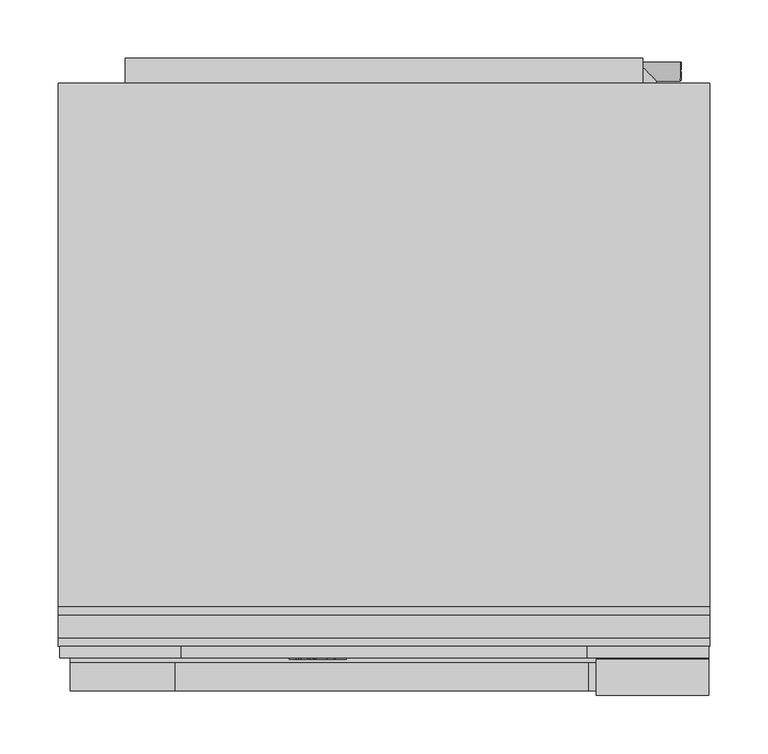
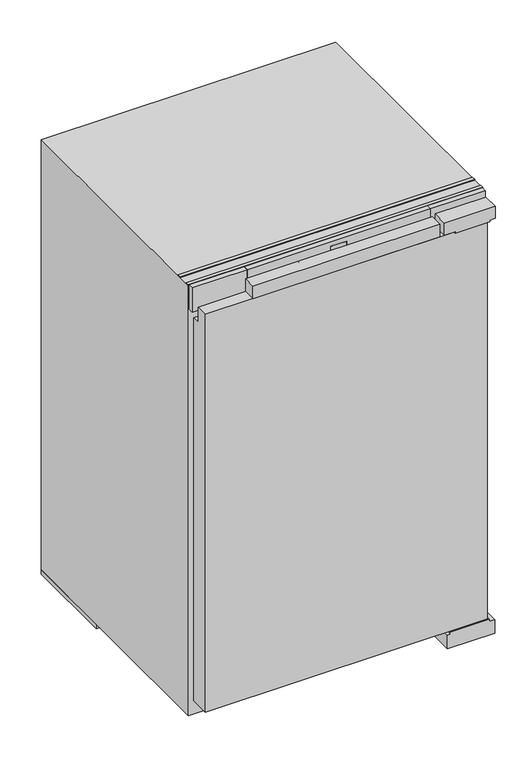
"""IFC4 building model written with IfcOpenShell, lengths in millimetres: proxy geometry, 11717520_OER_FNS7140E : 37714000_OER_11717520_FNS7140E."""

from ifc_helpers import new_model, si_unit, point, frame, frame_2d, origin, origin_with_axes, place, context, project, spatial, polyline, circle_curve, ellipse_curve, trimmed, segment, composite_curve, outline, extrude, faceted_brep, source, transform, mapped, element, save
from ifc_brep_helpers import plane_surface, cylinder_surface, revolved_surface, extruded_surface, advanced_brep


def specialty_equipment_aa71a83b(model_context):
    return source(origin(), model_context, "Body", "SolidModel", [
        advanced_brep(
        [(-37.4941578, 34.0, 845.708), (-37.4941578, 34.0, 846.516), (-32.1421578, 34.0, 846.516), (-41.4541578, 34.0, 846.516), (-39.2541578, 34.0, 843.812), (-32.2781578, 34.0, 845.708), (-34.6941578, 34.0, 845.708), (-36.5981578, 34.0, 844.812), (-37.4941578, 34.0, 847.54), (-37.4941578, 34.0, 848.412), (-36.1261578, 34.0, 848.412), (-36.1261578, 34.0, 847.54), (-37.4941578, 35.0, 845.708), (-36.5981578, 35.0, 844.812), (-34.6941578, 35.0, 845.708), (-32.2781578, 35.0, 845.708), (-39.2541578, 35.0, 843.812), (-41.4541578, 35.0, 846.516), (-32.1421578, 35.0, 846.516), (-37.4941578, 35.0, 846.516), (-37.4941578, 35.0, 847.54), (-36.1261578, 35.0, 847.54), (-36.1261578, 35.0, 848.412), (-37.4941578, 35.0, 848.412)],
        [
            (0, 1),
            (1, 2),
            (2, 3, ellipse_curve(frame((-36.7981578, 34.0, 846.516), z_axis=(0.0, -1.0, 0.0), x_axis=(-1.0, 0.0, 0.0)), 4.656, 3.848)),
            (3, 4, circle_curve(frame((-38.3581141, 34.0, 846.788), z_axis=(0.0, -1.0, 0.0), x_axis=(0.0, 0.0, -1.0)), 3.1079688)),
            (4, 5, circle_curve(frame((-36.8913642, 34.0, 848.9), z_axis=(0.0, -1.0, 0.0), x_axis=(0.0, 0.0, -1.0)), 5.6098607)),
            (5, 6),
            (6, 7, circle_curve(frame((-36.207099, 34.0, 846.452), z_axis=(0.0, 1.0, 0.0), x_axis=(0.0, 0.0, -1.0)), 1.6859795)),
            (7, 0, circle_curve(frame((-36.5981578, 34.0, 845.708), z_axis=(0.0, 1.0, 0.0), x_axis=(0.0, 0.0, -1.0)), 0.896)),
            (8, 9),
            (9, 10, circle_curve(frame((-36.8101578, 34.0, 848.412), z_axis=(0.0, 1.0, 0.0), x_axis=(0.0, 0.0, -1.0)), 0.684)),
            (10, 11),
            (11, 8),
            (12, 13, circle_curve(frame((-36.5981578, 35.0, 845.708), z_axis=(0.0, -1.0, 0.0), x_axis=(0.0, 0.0, -1.0)), 0.896)),
            (13, 14, circle_curve(frame((-36.207099, 35.0, 846.452), z_axis=(0.0, -1.0, 0.0), x_axis=(0.0, 0.0, -1.0)), 1.6859795)),
            (14, 15),
            (15, 16, circle_curve(frame((-36.8913642, 35.0, 848.9), z_axis=(0.0, 1.0, 0.0), x_axis=(0.0, 0.0, -1.0)), 5.6098607)),
            (16, 17, circle_curve(frame((-38.3581141, 35.0, 846.788), z_axis=(0.0, 1.0, 0.0), x_axis=(0.0, 0.0, -1.0)), 3.1079688)),
            (17, 18, ellipse_curve(frame((-36.7981578, 35.0, 846.516), z_axis=(0.0, 1.0, 0.0), x_axis=(-1.0, 0.0, 0.0)), 4.656, 3.848)),
            (18, 19),
            (19, 12),
            (20, 21),
            (21, 22),
            (22, 23, circle_curve(frame((-36.8101578, 35.0, 848.412), z_axis=(0.0, -1.0, 0.0), x_axis=(0.0, 0.0, -1.0)), 0.684)),
            (23, 20),
            (0, 12),
            (19, 1),
            (18, 2),
            (5, 15),
            (14, 6),
            (17, 3),
            (13, 7),
            (16, 4),
            (8, 20),
            (23, 9),
            (22, 10),
            (21, 11),
        ],
        [
            plane_surface(frame((-37.4941578, 34.0, 846.516), z_axis=(0.0, -1.0, 0.0), x_axis=(0.0, 0.0, 1.0))),
            plane_surface(frame((-37.4941578, 35.0, 846.516), z_axis=(0.0, 1.0, 0.0), x_axis=(0.0, 0.0, -1.0))),
            plane_surface(frame((-37.4941578, 34.0, 845.708), z_axis=(1.0, 0.0, 0.0), x_axis=(0.0, 1.0, 0.0))),
            plane_surface(frame((-37.4941578, 34.0, 846.516), z_axis=(0.0, 0.0, -1.0), x_axis=(0.0, 1.0, 0.0))),
            plane_surface(frame((-32.2781578, 34.0, 845.708), z_axis=(0.0, 0.0, 1.0), x_axis=(0.0, 1.0, 0.0))),
            extruded_surface(trimmed(ellipse_curve(frame((-36.7981578, 36.0, 846.516), z_axis=(0.0, -1.0, 0.0), x_axis=(-1.0, 0.0, 0.0)), 4.656, 3.848), [point((-32.1421578, 36.0, 846.516))], [point((-41.4541578, 36.0, 846.516))], True, "CARTESIAN"), (0.0, -1.0, 0.0), 1.0),
            revolved_surface(polyline([(-36.207099, 35.0, 844.7660205), (-36.207099, 34.0, 844.7660205)]), (-36.207099, 35.0, 846.452), (0.0, 1.0, 0.0)),
            revolved_surface(polyline([(-36.5981578, 35.0, 844.812), (-36.5981578, 34.0, 844.812)]), (-36.5981578, 35.0, 845.708), (0.0, 1.0, 0.0)),
            cylinder_surface(frame((-38.3581141, 35.0, 846.788), z_axis=(0.0, -1.0, 0.0), x_axis=(0.0, 0.0, -1.0)), 3.1079688),
            cylinder_surface(frame((-36.8913642, 35.0, 848.9), z_axis=(0.0, -1.0, 0.0), x_axis=(0.0, 0.0, -1.0)), 5.6098607),
            plane_surface(frame((-37.4941578, 34.0, 847.54), z_axis=(1.0, 0.0, 0.0), x_axis=(0.0, 1.0, 0.0))),
            revolved_surface(polyline([(-36.8101578, 35.0, 847.7280000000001), (-36.8101578, 34.0, 847.7280000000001)]), (-36.8101578, 35.0, 848.412), (0.0, 1.0, 0.0)),
            plane_surface(frame((-36.1261578, 34.0, 848.412), z_axis=(-1.0, 0.0, 0.0), x_axis=(0.0, 1.0, 0.0))),
            plane_surface(frame((-36.1261578, 34.0, 847.54), z_axis=(0.0, 0.0, 1.0), x_axis=(0.0, 1.0, 0.0))),
        ],
        [
            (0, [[1, 2, 3, 4, 5, 6, 7, 8], [9, 10, 11, 12]]),
            (1, [[13, 14, 15, 16, 17, 18, 19, 20], [21, 22, 23, 24]]),
            (2, [[-1, 25, -20, 26]]),
            (3, [[-2, -26, -19, 27]]),
            (4, [[-6, 28, -15, 29]]),
            (5, [[-3, -27, -18, 30]]),
            (6, [[-7, -29, -14, 31]]),
            (7, [[-8, -31, -13, -25]]),
            (8, [[-4, -30, -17, 32]]),
            (9, [[-5, -32, -16, -28]]),
            (10, [[-9, 33, -24, 34]]),
            (11, [[-10, -34, -23, 35]]),
            (12, [[-11, -35, -22, 36]]),
            (13, [[-12, -36, -21, -33]]),
        ],
    ),
        advanced_brep(
        [(-54.1901578, 34.0, 845.708), (-54.1901578, 34.0, 846.516), (-48.8381578, 34.0, 846.516), (-58.1501578, 34.0, 846.516), (-55.9501578, 34.0, 843.812), (-48.9741578, 34.0, 845.708), (-51.3901578, 34.0, 845.708), (-53.2941578, 34.0, 844.812), (-54.1901578, 34.0, 847.54), (-54.1901578, 34.0, 848.412), (-52.8221578, 34.0, 848.412), (-52.8221578, 34.0, 847.54), (-54.1901578, 35.0, 845.708), (-53.2941578, 35.0, 844.812), (-51.3901578, 35.0, 845.708), (-48.9741578, 35.0, 845.708), (-55.9501578, 35.0, 843.812), (-58.1501578, 35.0, 846.516), (-48.8381578, 35.0, 846.516), (-54.1901578, 35.0, 846.516), (-54.1901578, 35.0, 847.54), (-52.8221578, 35.0, 847.54), (-52.8221578, 35.0, 848.412), (-54.1901578, 35.0, 848.412)],
        [
            (0, 1),
            (1, 2),
            (2, 3, ellipse_curve(frame((-53.4941578, 34.0, 846.516), z_axis=(0.0, -1.0, 0.0), x_axis=(-1.0, 0.0, 0.0)), 4.656, 3.848)),
            (3, 4, circle_curve(frame((-55.0541141, 34.0, 846.788), z_axis=(0.0, -1.0, 0.0), x_axis=(0.0, 0.0, -1.0)), 3.1079688)),
            (4, 5, circle_curve(frame((-53.5873642, 34.0, 848.9), z_axis=(0.0, -1.0, 0.0), x_axis=(0.0, 0.0, -1.0)), 5.6098607)),
            (5, 6),
            (6, 7, circle_curve(frame((-52.903099, 34.0, 846.452), z_axis=(0.0, 1.0, 0.0), x_axis=(0.0, 0.0, -1.0)), 1.6859795)),
            (7, 0, circle_curve(frame((-53.2941578, 34.0, 845.708), z_axis=(0.0, 1.0, 0.0), x_axis=(0.0, 0.0, -1.0)), 0.896)),
            (8, 9),
            (9, 10, circle_curve(frame((-53.5061578, 34.0, 848.412), z_axis=(0.0, 1.0, 0.0), x_axis=(0.0, 0.0, -1.0)), 0.684)),
            (10, 11),
            (11, 8),
            (12, 13, circle_curve(frame((-53.2941578, 35.0, 845.708), z_axis=(0.0, -1.0, 0.0), x_axis=(0.0, 0.0, -1.0)), 0.896)),
            (13, 14, circle_curve(frame((-52.903099, 35.0, 846.452), z_axis=(0.0, -1.0, 0.0), x_axis=(0.0, 0.0, -1.0)), 1.6859795)),
            (14, 15),
            (15, 16, circle_curve(frame((-53.5873642, 35.0, 848.9), z_axis=(0.0, 1.0, 0.0), x_axis=(0.0, 0.0, -1.0)), 5.6098607)),
            (16, 17, circle_curve(frame((-55.0541141, 35.0, 846.788), z_axis=(0.0, 1.0, 0.0), x_axis=(0.0, 0.0, -1.0)), 3.1079688)),
            (17, 18, ellipse_curve(frame((-53.4941578, 35.0, 846.516), z_axis=(0.0, 1.0, 0.0), x_axis=(-1.0, 0.0, 0.0)), 4.656, 3.848)),
            (18, 19),
            (19, 12),
            (20, 21),
            (21, 22),
            (22, 23, circle_curve(frame((-53.5061578, 35.0, 848.412), z_axis=(0.0, -1.0, 0.0), x_axis=(0.0, 0.0, -1.0)), 0.684)),
            (23, 20),
            (0, 12),
            (19, 1),
            (18, 2),
            (5, 15),
            (14, 6),
            (17, 3),
            (13, 7),
            (16, 4),
            (8, 20),
            (23, 9),
            (22, 10),
            (21, 11),
        ],
        [
            plane_surface(frame((-54.1901578, 34.0, 846.516), z_axis=(0.0, -1.0, 0.0), x_axis=(0.0, 0.0, 1.0))),
            plane_surface(frame((-54.1901578, 35.0, 846.516), z_axis=(0.0, 1.0, 0.0), x_axis=(0.0, 0.0, -1.0))),
            plane_surface(frame((-54.1901578, 34.0, 845.708), z_axis=(1.0, 0.0, 0.0), x_axis=(0.0, 1.0, 0.0))),
            plane_surface(frame((-54.1901578, 34.0, 846.516), z_axis=(0.0, 0.0, -1.0), x_axis=(0.0, 1.0, 0.0))),
            plane_surface(frame((-48.9741578, 34.0, 845.708), z_axis=(0.0, 0.0, 1.0), x_axis=(0.0, 1.0, 0.0))),
            extruded_surface(trimmed(ellipse_curve(frame((-53.4941578, 36.0, 846.516), z_axis=(0.0, -1.0, 0.0), x_axis=(-1.0, 0.0, 0.0)), 4.656, 3.848), [point((-48.8381578, 36.0, 846.516))], [point((-58.1501578, 36.0, 846.516))], True, "CARTESIAN"), (0.0, -1.0, 0.0), 1.0),
            revolved_surface(polyline([(-52.903099, 35.0, 844.7660205), (-52.903099, 34.0, 844.7660205)]), (-52.903099, 35.0, 846.452), (0.0, 1.0, 0.0)),
            revolved_surface(polyline([(-53.2941578, 35.0, 844.812), (-53.2941578, 34.0, 844.812)]), (-53.2941578, 35.0, 845.708), (0.0, 1.0, 0.0)),
            cylinder_surface(frame((-55.0541141, 35.0, 846.788), z_axis=(0.0, -1.0, 0.0), x_axis=(0.0, 0.0, -1.0)), 3.1079688),
            cylinder_surface(frame((-53.5873642, 35.0, 848.9), z_axis=(0.0, -1.0, 0.0), x_axis=(0.0, 0.0, -1.0)), 5.6098607),
            plane_surface(frame((-54.1901578, 34.0, 847.54), z_axis=(1.0, 0.0, 0.0), x_axis=(0.0, 1.0, 0.0))),
            revolved_surface(polyline([(-53.5061578, 35.0, 847.7280000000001), (-53.5061578, 34.0, 847.7280000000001)]), (-53.5061578, 35.0, 848.412), (0.0, 1.0, 0.0)),
            plane_surface(frame((-52.8221578, 34.0, 848.412), z_axis=(-1.0, 0.0, 0.0), x_axis=(0.0, 1.0, 0.0))),
            plane_surface(frame((-52.8221578, 34.0, 847.54), z_axis=(0.0, 0.0, 1.0), x_axis=(0.0, 1.0, 0.0))),
        ],
        [
            (0, [[1, 2, 3, 4, 5, 6, 7, 8], [9, 10, 11, 12]]),
            (1, [[13, 14, 15, 16, 17, 18, 19, 20], [21, 22, 23, 24]]),
            (2, [[-1, 25, -20, 26]]),
            (3, [[-2, -26, -19, 27]]),
            (4, [[-6, 28, -15, 29]]),
            (5, [[-3, -27, -18, 30]]),
            (6, [[-7, -29, -14, 31]]),
            (7, [[-8, -31, -13, -25]]),
            (8, [[-4, -30, -17, 32]]),
            (9, [[-5, -32, -16, -28]]),
            (10, [[-9, 33, -24, 34]]),
            (11, [[-10, -34, -23, 35]]),
            (12, [[-11, -35, -22, 36]]),
            (13, [[-12, -36, -21, -33]]),
        ],
    ),
        extrude(outline(polyline([(851.34, -62.9341578), (850.044, -62.3261578), (851.308, -59.6141578), (852.604, -60.2141578), (851.34, -62.9341578)])), frame((0.0, 34.0, 0.0), z_axis=(0.0, 1.0, 0.0), x_axis=(0.0, 0.0, 1.0)), (0.0, 0.0, 1.0), 1.0),
        extrude(outline(polyline([(849.868, -64.9101578), (848.436, -64.9101578), (848.436, -63.9581578), (845.156, -63.9581578), (845.156, -64.9101578), (843.812, -64.9101578), (843.812, -58.5981578), (845.156, -58.5981578), (845.156, -59.5261578), (849.868, -59.5261578), (849.868, -64.9101578)])), frame((0.0, 34.0, 0.0), z_axis=(0.0, 1.0, 0.0), x_axis=(0.0, 0.0, 1.0)), (0.0, 0.0, 1.0), 1.0),
        extrude(outline(polyline([(850.508, -48.3901578), (850.508, -47.4301578), (845.156, -47.4301578), (845.156, -48.3901578), (843.812, -48.3901578), (843.812, -41.9021578), (845.156, -41.9021578), (845.156, -42.8861578), (851.812, -42.8861578), (851.812, -48.3901578), (850.508, -48.3901578)])), frame((0.0, 34.0, 0.0), z_axis=(0.0, 1.0, 0.0), x_axis=(0.0, 0.0, 1.0)), (0.0, 0.0, 1.0), 1.0),
        extrude(outline(polyline([(850.508, -80.8541578), (850.508, -79.8861578), (845.156, -79.8861578), (845.156, -80.8541578), (843.812, -80.8541578), (843.812, -77.3341578), (845.156, -77.3341578), (845.156, -78.2941578), (848.5591247, -78.2941578), (843.812, -74.7181578), (848.6272223, -71.1261578), (845.156, -71.1261578), (845.156, -72.1101578), (843.812, -72.1101578), (843.812, -65.7261578), (845.156, -65.7261578), (845.156, -66.7421578), (850.508, -66.7421578), (850.508, -65.7261578), (851.812, -65.7261578), (851.812, -70.5981578), (848.812, -72.9341578), (851.812, -75.2781578), (851.812, -80.8541578), (850.508, -80.8541578)])), frame((0.0, 34.0, 0.0), z_axis=(0.0, 1.0, 0.0), x_axis=(0.0, 0.0, 1.0)), (0.0, 0.0, 1.0), 1.0),
        faceted_brep([(173.6458422, 35.0, 871.0), (-173.3541578, 35.0, 871.0), (-173.3541578, 35.0, 822.0), (173.6458422, 35.0, 822.0), (15.1458422, 35.0, 862.0), (15.1458422, 35.0, 832.0), (-14.8541578, 35.0, 832.0), (-14.8541578, 35.0, 862.0), (173.6458422, 45.0, 871.0), (173.6458422, 45.0, 822.0), (-173.3541578, 45.0, 822.0), (-173.3541578, 45.0, 871.0), (15.1458422, 36.0, 862.0), (-14.8541578, 36.0, 862.0), (-14.8541578, 36.0, 832.0), (15.1458422, 36.0, 832.0)], [[[0, 1, 2, 3], [4, 5, 6, 7]], [[8, 9, 10, 11]], [[0, 3, 9, 8]], [[3, 2, 10, 9]], [[2, 1, 11, 10]], [[1, 0, 8, 11]], [[12, 13, 14, 15]], [[12, 15, 5, 4]], [[15, 14, 6, 5]], [[14, 13, 7, 6]], [[13, 12, 4, 7]]]),
        extrude(outline(polyline([(173.6458422, 45.0), (277.6458422, 45.0), (277.6458422, 35.0), (173.6458422, 35.0), (173.6458422, 45.0)])), frame((0.0, 0.0, 822.0), z_axis=(0.0, 0.0, 1.0), x_axis=(1.0, 0.0, 0.0)), (0.0, 0.0, 1.0), 49.0),
        extrude(outline(polyline([(-277.3541578, 45.0), (-173.3541578, 45.0), (-173.3541578, 35.0), (-277.3541578, 35.0), (-277.3541578, 45.0)])), frame((0.0, 0.0, 822.0), z_axis=(0.0, 0.0, 1.0), x_axis=(1.0, 0.0, 0.0)), (0.0, 0.0, 1.0), 49.0),
        extrude(outline(polyline([(-14.8541578, 36.0), (15.1458422, 36.0), (15.1458422, 35.0), (-14.8541578, 35.0), (-14.8541578, 36.0)])), frame((0.0, 0.0, 832.0), z_axis=(0.0, 0.0, 1.0), x_axis=(1.0, 0.0, 0.0)), (0.0, 0.0, 1.0), 30.0),
        extrude(outline(polyline([(174.6194317, 7.0), (-178.3805683, 7.0), (-178.3805683, 31.0), (174.6194317, 31.0), (174.6194317, 7.0)])), frame((0.0, 0.0, 831.8), z_axis=(0.0, 0.0, 1.0), x_axis=(1.0, 0.0, 0.0)), (0.0, 0.0, 1.0), 25.0),
        extrude(outline(polyline([(7.0, 35.8), (7.0, 831.8), (31.0, 831.8), (31.0, 801.8), (45.0, 801.8), (45.0, 35.8), (7.0, 35.8)])), frame((-268.3805683, 0.0, 0.0), z_axis=(1.0, 0.0, 0.0), x_axis=(0.0, 1.0, 0.0)), (0.0, 0.0, 1.0), 533.0),
        extrude(outline(polyline([(31.8, 187.6194317), (4.8, 187.6194317), (4.8, 277.6194317), (31.8, 277.6194317), (31.8, 266.6194317), (35.8, 266.6194317), (35.8, 193.6194317), (31.8, 193.6194317), (31.8, 187.6194317)])), frame((0.0, 4.0, 0.0), z_axis=(0.0, 1.0, 0.0), x_axis=(0.0, 0.0, 1.0)), (0.0, 0.0, 1.0), 41.0),
        extrude(outline(polyline([(831.8, 201.6194317), (831.8, 267.6194317), (834.8, 267.6194317), (834.8, 277.6194317), (858.8, 277.6194317), (858.8, 181.6194317), (834.8, 181.6194317), (834.8, 201.6194317), (831.8, 201.6194317)])), frame((0.0, 3.0, 0.0), z_axis=(0.0, 1.0, 0.0), x_axis=(0.0, 0.0, 1.0)), (0.0, 0.0, 1.0), 31.0),
        extrude(outline(polyline([(208.5, 487.0), (208.5, 399.0), (-208.5, 399.0), (-208.5, 487.0), (208.5, 487.0)])), frame((0.0, 0.0, 75.0), z_axis=(0.0, 0.0, 1.0), x_axis=(1.0, 0.0, 0.0)), (0.0, 0.0, 1.0), 217.0),
        faceted_brep([(278.5, 527.0, 869.0), (-278.5, 527.0, 869.0), (-278.5, 45.0, 869.0), (278.5, 45.0, 869.0), (278.5, 527.0, 9.0), (278.5, 45.0, 9.0), (-278.5, 45.0, 9.0), (-278.5, 527.0, 9.0), (-208.5, 45.0, 791.0), (208.5, 45.0, 791.0), (208.5, 45.0, 75.0), (-208.5, 45.0, 75.0), (208.5, 487.0, 791.0), (-208.5, 487.0, 791.0), (-208.5, 487.0, 75.0), (208.5, 487.0, 75.0)], [[[0, 1, 2, 3]], [[4, 5, 6, 7]], [[1, 0, 4, 7]], [[2, 1, 7, 6]], [[3, 2, 6, 5], [8, 9, 10, 11]], [[0, 3, 5, 4]], [[12, 13, 14, 15]], [[13, 12, 9, 8]], [[14, 13, 8, 11]], [[15, 14, 11, 10]], [[12, 15, 10, 9]]]),
        extrude(outline(polyline([(278.5, 52.0), (278.5, 45.0), (-278.5, 45.0), (-278.5, 52.0), (278.5, 52.0)])), frame((0.0, 0.0, 869.0), z_axis=(0.0, 0.0, 1.0), x_axis=(1.0, 0.0, 0.0)), (0.0, 0.0, 1.0), 2.0),
        extrude(outline(polyline([(278.5, 79.0), (278.5, 72.0), (-278.5, 72.0), (-278.5, 79.0), (278.5, 79.0)])), frame((0.0, 0.0, 869.0), z_axis=(0.0, 0.0, 1.0), x_axis=(1.0, 0.0, 0.0)), (0.0, 0.0, 1.0), 2.0),
        extrude(outline(polyline([(529.6227397, 135.8394627), (529.6227397, 145.8850937), (536.843037, 145.8850937), (536.843037, 144.6293899), (530.8784436, 144.6293899), (530.8784436, 141.6470932), (536.529111, 141.6470932), (536.529111, 140.3913893), (530.8784436, 140.3913893), (530.8784436, 137.0951666), (537.0, 137.0951666), (537.0, 135.8394627), (529.6227397, 135.8394627)])), frame((253.2418947, 0.0, 0.0), z_axis=(1.0, 0.0, 0.0), x_axis=(0.0, 1.0, 0.0)), (0.0, 0.0, 1.0), 1.0),
        extrude(outline(polyline([(538.8835558, 135.8394627), (538.8835558, 145.8850937), (540.1392597, 145.8850937), (540.1392597, 137.0951666), (545.1620752, 137.0951666), (545.1620752, 135.8394627), (538.8835558, 135.8394627)])), frame((253.2418947, 0.0, 0.0), z_axis=(1.0, 0.0, 0.0), x_axis=(0.0, 1.0, 0.0)), (0.0, 0.0, 1.0), 1.0),
        advanced_brep(
        [(232.9638051, 527.0, 140.8394627), (217.0361949, 527.0, 140.8394627), (232.9638051, 529.0361949, 140.8394627), (217.0361949, 544.9638051, 140.8394627), (253.2418947, 529.0361949, 140.8394627), (253.2418947, 544.9638051, 140.8394627)],
        [
            (0, 1, circle_curve(frame((225.0, 527.0, 140.8394627), z_axis=(0.0, -1.0, 0.0), x_axis=(-1.0, 0.0, 0.0)), 7.9638051)),
            (1, 0, circle_curve(frame((225.0, 527.0, 140.8394627), z_axis=(0.0, -1.0, 0.0), x_axis=(-1.0, 0.0, 0.0)), 7.9638051)),
            (0, 2),
            (2, 3, ellipse_curve(frame((225.0, 537.0, 140.8394627), z_axis=(-0.70710678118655, -0.707106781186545, 0.0), x_axis=(0.707106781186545, -0.7071067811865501, 0.0)), 11.2625212, 7.9638051)),
            (3, 1),
            (3, 2, ellipse_curve(frame((225.0, 537.0, 140.8394627), z_axis=(-0.70710678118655, -0.707106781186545, 0.0), x_axis=(0.707106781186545, -0.7071067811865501, 0.0)), 11.2625212, 7.9638051)),
            (4, 5, circle_curve(frame((253.2418947, 537.0, 140.8394627), z_axis=(1.0, 0.0, 0.0), x_axis=(0.0, 1.0, 0.0)), 7.9638051)),
            (5, 4, circle_curve(frame((253.2418947, 537.0, 140.8394627), z_axis=(1.0, 0.0, 0.0), x_axis=(0.0, 1.0, 0.0)), 7.9638051)),
            (2, 4),
            (5, 3),
        ],
        [
            plane_surface(frame((225.0, 527.0, 2.0), z_axis=(0.0, -1.0, 0.0), x_axis=(0.0, 0.0, 1.0))),
            cylinder_surface(frame((225.0, 527.0, 140.8394627), z_axis=(0.0, -1.0, 0.0), x_axis=(-1.0, 0.0, 0.0)), 7.9638051),
            plane_surface(frame((253.2418947, 537.0, 2.0), z_axis=(1.0, 0.0, 0.0), x_axis=(0.0, 0.0, 1.0))),
            cylinder_surface(frame((225.0, 537.0, 140.8394627), z_axis=(-1.0, 0.0, 0.0), x_axis=(0.0, 1.0, 0.0)), 7.9638051),
        ],
        [
            (0, [[1, 2]]),
            (1, [[-1, 3, 4, 5]]),
            (1, [[-2, -5, 6, -3]]),
            (2, [[7, 8]]),
            (3, [[-4, 9, -8, 10]]),
            (3, [[-6, -10, -7, -9]]),
        ],
    ),
        extrude(outline(composite_curve([segment(trimmed(circle_curve(frame_2d((-226.5, 64.6852762)), 11.0852762), [point((-237.5852762, 64.6852762))], [point((-215.4147238, 64.6852762))], False, "CARTESIAN"), True, "CONTINUOUS"), segment(trimmed(circle_curve(frame_2d((-226.5, 64.6852762)), 11.0852762), [point((-215.4147238, 64.6852762))], [point((-237.5852762, 64.6852762))], False, "CARTESIAN"), True, "CONTINUOUS")], self_intersect=False)), origin_with_axes(), (0.0, 0.0, 1.0), 9.0),
        extrude(outline(composite_curve([segment(trimmed(circle_curve(frame_2d((226.5, 64.6852762)), 11.0852762), [point((215.4147238, 64.6852762))], [point((237.5852762, 64.6852762))], False, "CARTESIAN"), True, "CONTINUOUS"), segment(trimmed(circle_curve(frame_2d((226.5, 64.6852762)), 11.0852762), [point((237.5852762, 64.6852762))], [point((215.4147238, 64.6852762))], False, "CARTESIAN"), True, "CONTINUOUS")], self_intersect=False)), origin_with_axes(), (0.0, 0.0, 1.0), 9.0),
        extrude(outline(polyline([(-175.9047649, 94.122951), (-193.5137281, 345.9428573), (-168.5746269, 347.6867691), (-150.9656637, 95.8668628), (-175.9047649, 94.122951)])), frame((0.0, 0.0, 2.0), z_axis=(0.0, 0.0, 1.0), x_axis=(1.0, 0.0, 0.0)), (0.0, 0.0, 1.0), 7.0),
        extrude(outline(polyline([(175.9047649, 94.122951), (150.9656637, 95.8668628), (168.5777725, 347.7317536), (193.5168738, 345.9878417), (175.9047649, 94.122951)])), frame((0.0, 0.0, 2.0), z_axis=(0.0, 0.0, 1.0), x_axis=(1.0, 0.0, 0.0)), (0.0, 0.0, 1.0), 7.0),
        extrude(outline(polyline([(278.5, 347.71), (-278.5, 347.71), (-278.5, 527.0), (278.5, 527.0), (278.5, 347.71)])), origin_with_axes(), (0.0, 0.0, 1.0), 9.0),
        extrude(outline(polyline([(813.0, 221.5), (813.0, -221.5), (23.0, -221.5), (23.0, 221.5), (131.0534782, 221.5), (131.0534782, 212.5555072), (151.6704825, 212.5555072), (151.6704825, 221.5), (813.0, 221.5)])), frame((0.0, 527.0, 0.0), z_axis=(0.0, 1.0, 0.0), x_axis=(0.0, 0.0, 1.0)), (0.0, 0.0, 1.0), 21.28),
    ])


if __name__ == "__main__":
    model = new_model("IFC4")
    model_context = context("Model", 3, world=origin())
    ifc_project = project(units=[si_unit("LENGTHUNIT", "METRE", prefix="MILLI")], contexts=[model_context])
    site = spatial("IfcSite", under=ifc_project)
    building = spatial("IfcBuilding", under=site)
    placement = place(None, origin())
    specialty_equipment_shape = specialty_equipment_aa71a83b(model_context)
    element("IfcBuildingElementProxy", 1, Name="11717520_OER_FNS7140E : 37714000_OER_11717520_FNS7140E", ObjectType="11717520_OER_FNS7140E : 37714000_OER_11717520_FNS7140E", at=placement, inside=building, context=model_context, shape_type="MappedRepresentation", body=[
        mapped(specialty_equipment_shape, transform((0.0, 0.0, 0.0), x_axis=(1.0, 0.0, 0.0), y_axis=(0.0, 1.0, 0.0), z_axis=(0.0, 0.0, 1.0))),
    ])
    save(model, "model.ifc")
